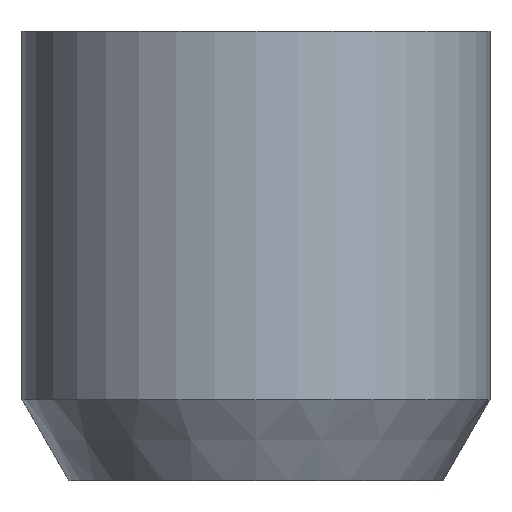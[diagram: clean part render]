
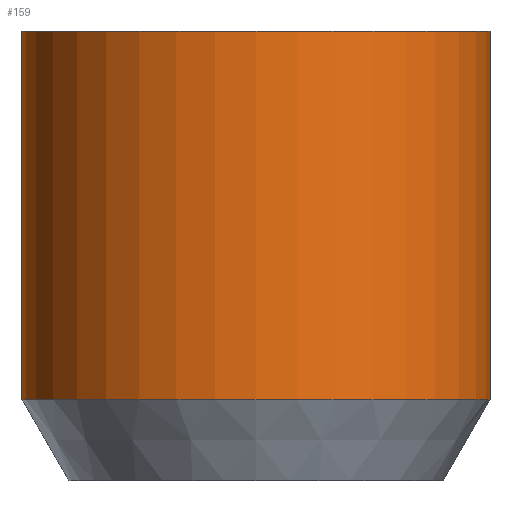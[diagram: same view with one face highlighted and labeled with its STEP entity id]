
A CAD part, front view. The second image highlights one B-rep face of the part: STEP entity #159.
In plain terms, the highlighted cylindrical face has radius 5 mm (diameter 10 mm), a partial arc.
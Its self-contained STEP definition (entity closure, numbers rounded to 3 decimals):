
#16=CYLINDRICAL_SURFACE('',#197,5.);
#31=FACE_OUTER_BOUND('',#41,.T.);
#41=EDGE_LOOP('',(#141,#142,#143,#144));
#45=CIRCLE('',#189,5.);
#48=CIRCLE('',#198,5.);
#59=LINE('',#278,#73);
#61=LINE('',#286,#75);
#73=VECTOR('',#230,10.);
#75=VECTOR('',#240,10.);
#82=VERTEX_POINT('',#260);
#84=VERTEX_POINT('',#266);
#86=VERTEX_POINT('',#276);
#88=VERTEX_POINT('',#285);
#97=EDGE_CURVE('',#84,#82,#45,.T.);
#103=EDGE_CURVE('',#84,#86,#59,.T.);
#106=EDGE_CURVE('',#82,#88,#61,.T.);
#108=EDGE_CURVE('',#88,#86,#48,.T.);
#141=ORIENTED_EDGE('',*,*,#97,.F.);
#142=ORIENTED_EDGE('',*,*,#103,.T.);
#143=ORIENTED_EDGE('',*,*,#108,.F.);
#144=ORIENTED_EDGE('',*,*,#106,.F.);
#159=ADVANCED_FACE('',(#31),#16,.T.);
#189=AXIS2_PLACEMENT_3D('',#268,#218,#219);
#197=AXIS2_PLACEMENT_3D('',#288,#242,#243);
#198=AXIS2_PLACEMENT_3D('',#289,#244,#245);
#218=DIRECTION('center_axis',(0.,0.,-1.));
#219=DIRECTION('ref_axis',(-1.,0.,0.));
#230=DIRECTION('',(0.,0.,1.));
#240=DIRECTION('',(0.,0.,1.));
#242=DIRECTION('center_axis',(0.,0.,1.));
#243=DIRECTION('ref_axis',(-1.,0.,0.));
#244=DIRECTION('center_axis',(0.,0.,1.));
#245=DIRECTION('ref_axis',(-1.,0.,0.));
#260=CARTESIAN_POINT('',(-5.,-0.5,1.732));
#266=CARTESIAN_POINT('',(5.,-0.5,1.732));
#268=CARTESIAN_POINT('Origin',(0.,-0.5,1.732));
#276=CARTESIAN_POINT('',(5.,-0.5,9.6));
#278=CARTESIAN_POINT('',(5.,-0.5,0.));
#285=CARTESIAN_POINT('',(-5.,-0.5,9.6));
#286=CARTESIAN_POINT('',(-5.,-0.5,0.));
#288=CARTESIAN_POINT('Origin',(0.,-0.5,0.));
#289=CARTESIAN_POINT('Origin',(0.,-0.5,9.6));
